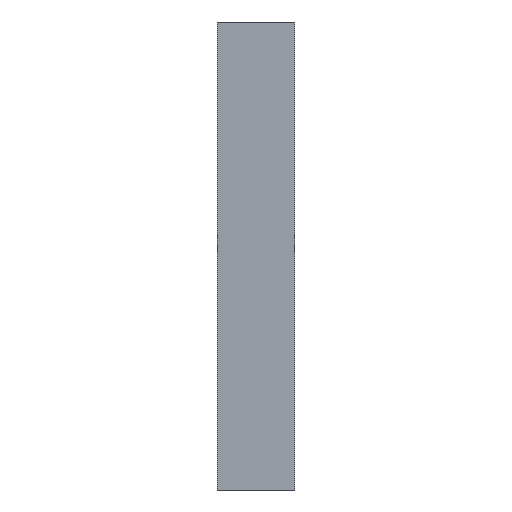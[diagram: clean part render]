
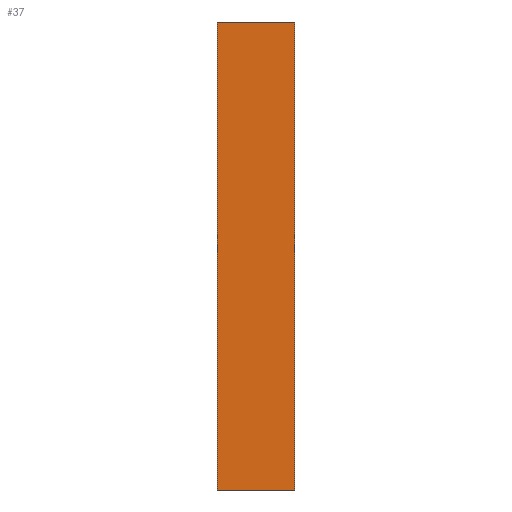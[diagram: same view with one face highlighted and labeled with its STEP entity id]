
A CAD part, left-side view. The second image highlights one B-rep face of the part: STEP entity #37.
In plain terms, the highlighted planar face has unit normal (-1, 0, 0).
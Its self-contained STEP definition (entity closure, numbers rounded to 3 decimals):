
#37=ADVANCED_FACE('',(#49),#353,.T.);
#49=FACE_OUTER_BOUND('',#61,.T.);
#61=EDGE_LOOP('',(#79,#80,#81,#82));
#79=ORIENTED_EDGE('',*,*,#244,.F.);
#80=ORIENTED_EDGE('',*,*,#246,.T.);
#81=ORIENTED_EDGE('',*,*,#247,.T.);
#82=ORIENTED_EDGE('',*,*,#248,.T.);
#125=PCURVE('',#352,#173);
#127=PCURVE('',#353,#175);
#128=PCURVE('',#353,#176);
#129=PCURVE('',#353,#177);
#130=PCURVE('',#353,#178);
#131=PCURVE('',#354,#179);
#137=PCURVE('',#355,#185);
#140=PCURVE('',#356,#188);
#173=DEFINITIONAL_REPRESENTATION('',(#275),#586);
#175=DEFINITIONAL_REPRESENTATION('',(#278),#586);
#176=DEFINITIONAL_REPRESENTATION('',(#280),#586);
#177=DEFINITIONAL_REPRESENTATION('',(#282),#586);
#178=DEFINITIONAL_REPRESENTATION('',(#284),#586);
#179=DEFINITIONAL_REPRESENTATION('',(#285),#586);
#185=DEFINITIONAL_REPRESENTATION('',(#293),#586);
#188=DEFINITIONAL_REPRESENTATION('',(#296),#586);
#220=SURFACE_CURVE('',#274,(#125,#127),.PCURVE_S1.);
#222=SURFACE_CURVE('',#279,(#128,#140),.PCURVE_S1.);
#223=SURFACE_CURVE('',#281,(#129,#131),.PCURVE_S1.);
#224=SURFACE_CURVE('',#283,(#130,#137),.PCURVE_S1.);
#244=EDGE_CURVE('',#340,#339,#220,.T.);
#246=EDGE_CURVE('',#340,#342,#222,.T.);
#247=EDGE_CURVE('',#342,#341,#223,.T.);
#248=EDGE_CURVE('',#341,#339,#224,.T.);
#274=B_SPLINE_CURVE_WITH_KNOTS('',1,(#449,#450),.UNSPECIFIED.,.F.,.F.,(2,
2),(-400.,0.),.UNSPECIFIED.);
#275=B_SPLINE_CURVE_WITH_KNOTS('',1,(#451,#452),.UNSPECIFIED.,.F.,.F.,(2,
2),(-400.,0.),.UNSPECIFIED.);
#278=B_SPLINE_CURVE_WITH_KNOTS('',1,(#457,#458),.UNSPECIFIED.,.F.,.F.,(2,
2),(-400.,0.),.UNSPECIFIED.);
#279=B_SPLINE_CURVE_WITH_KNOTS('',1,(#459,#460),.UNSPECIFIED.,.F.,.F.,(2,
2),(-100.,-50.),.UNSPECIFIED.);
#280=B_SPLINE_CURVE_WITH_KNOTS('',1,(#461,#462),.UNSPECIFIED.,.F.,.F.,(2,
2),(-100.,-50.),.UNSPECIFIED.);
#281=B_SPLINE_CURVE_WITH_KNOTS('',1,(#463,#464),.UNSPECIFIED.,.F.,.F.,(2,
2),(-400.,0.),.UNSPECIFIED.);
#282=B_SPLINE_CURVE_WITH_KNOTS('',1,(#465,#466),.UNSPECIFIED.,.F.,.F.,(2,
2),(-400.,0.),.UNSPECIFIED.);
#283=B_SPLINE_CURVE_WITH_KNOTS('',1,(#467,#468),.UNSPECIFIED.,.F.,.F.,(2,
2),(50.,100.),.UNSPECIFIED.);
#284=B_SPLINE_CURVE_WITH_KNOTS('',1,(#469,#470),.UNSPECIFIED.,.F.,.F.,(2,
2),(50.,100.),.UNSPECIFIED.);
#285=B_SPLINE_CURVE_WITH_KNOTS('',1,(#471,#472),.UNSPECIFIED.,.F.,.F.,(2,
2),(-400.,0.),.UNSPECIFIED.);
#293=B_SPLINE_CURVE_WITH_KNOTS('',1,(#487,#488),.UNSPECIFIED.,.F.,.F.,(2,
2),(50.,100.),.UNSPECIFIED.);
#296=B_SPLINE_CURVE_WITH_KNOTS('',1,(#493,#494),.UNSPECIFIED.,.F.,.F.,(2,
2),(-100.,-50.),.UNSPECIFIED.);
#339=VERTEX_POINT('',#423);
#340=VERTEX_POINT('',#424);
#341=VERTEX_POINT('',#425);
#342=VERTEX_POINT('',#426);
#352=PLANE('',#384);
#353=PLANE('',#385);
#354=PLANE('',#386);
#355=PLANE('',#387);
#356=PLANE('',#388);
#384=AXIS2_PLACEMENT_3D('',#414,#399,$);
#385=AXIS2_PLACEMENT_3D('',#415,#400,$);
#386=AXIS2_PLACEMENT_3D('',#416,#401,$);
#387=AXIS2_PLACEMENT_3D('',#417,#402,$);
#388=AXIS2_PLACEMENT_3D('',#418,#403,$);
#399=DIRECTION('',(0.,0.,1.));
#400=DIRECTION('',(-1.,0.,0.));
#401=DIRECTION('',(0.,0.,-1.));
#402=DIRECTION('',(0.,-1.,0.));
#403=DIRECTION('',(0.,1.,0.));
#414=CARTESIAN_POINT('',(-610.,-565.,-40.));
#415=CARTESIAN_POINT('',(-650.,-565.,-40.));
#416=CARTESIAN_POINT('',(-650.,-565.,-160.));
#417=CARTESIAN_POINT('',(-650.,-565.,-160.));
#418=CARTESIAN_POINT('',(-650.,-545.,-160.));
#423=CARTESIAN_POINT('',(-650.,-565.,-40.));
#424=CARTESIAN_POINT('',(-650.,-545.,-40.));
#425=CARTESIAN_POINT('',(-650.,-565.,-160.));
#426=CARTESIAN_POINT('',(-650.,-545.,-160.));
#449=CARTESIAN_POINT('',(-650.,-545.,-40.));
#450=CARTESIAN_POINT('',(-650.,-565.,-40.));
#451=CARTESIAN_POINT('',(400.,-100.));
#452=CARTESIAN_POINT('',(0.,-100.));
#457=CARTESIAN_POINT('',(400.,-100.));
#458=CARTESIAN_POINT('',(0.,-100.));
#459=CARTESIAN_POINT('',(-650.,-545.,-40.));
#460=CARTESIAN_POINT('',(-650.,-545.,-160.));
#461=CARTESIAN_POINT('',(400.,-100.));
#462=CARTESIAN_POINT('',(400.,-50.));
#463=CARTESIAN_POINT('',(-650.,-545.,-160.));
#464=CARTESIAN_POINT('',(-650.,-565.,-160.));
#465=CARTESIAN_POINT('',(400.,-50.));
#466=CARTESIAN_POINT('',(0.,-50.));
#467=CARTESIAN_POINT('',(-650.,-565.,-160.));
#468=CARTESIAN_POINT('',(-650.,-565.,-40.));
#469=CARTESIAN_POINT('',(0.,-50.));
#470=CARTESIAN_POINT('',(0.,-100.));
#471=CARTESIAN_POINT('',(400.,-50.));
#472=CARTESIAN_POINT('',(0.,-50.));
#487=CARTESIAN_POINT('',(-40.,0.));
#488=CARTESIAN_POINT('',(-40.,40.));
#493=CARTESIAN_POINT('',(40.,-40.));
#494=CARTESIAN_POINT('',(0.,-40.));
#586=(
GEOMETRIC_REPRESENTATION_CONTEXT(2)
PARAMETRIC_REPRESENTATION_CONTEXT()
REPRESENTATION_CONTEXT('pspace','')
);
